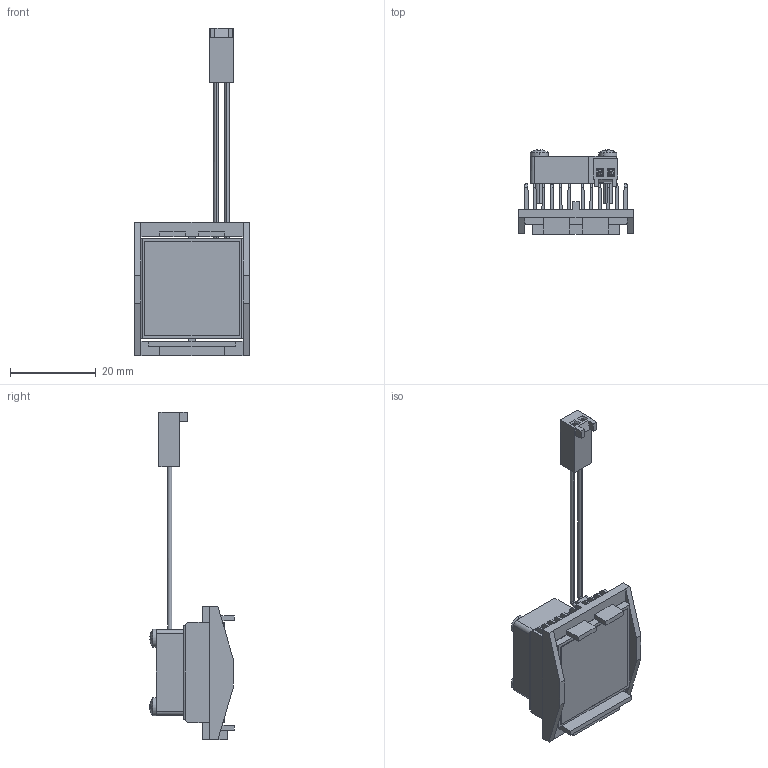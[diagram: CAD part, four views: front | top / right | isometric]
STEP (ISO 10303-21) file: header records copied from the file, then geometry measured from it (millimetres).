
FILE_DESCRIPTION (( 'STEP AP214' ), '1' );
FILE_NAME ('FI24-1.7+Y.STEP', '2023-03-17T09:03:08', ( '' ), ( '' ), 'SwSTEP 2.0', 'SolidWorks 2020', '' );
FILE_SCHEMA (( 'AUTOMOTIVE_DESIGN' ));
Length unit declared in the file: millimetre
Products named in the file (1): FI24-1.7+Y
Bounding box: 26.7 x 19.68 x 76.4 mm (x, y, z)
Volume: 5254.5 mm3; surface area: 11729 mm2
Topology: 10 solids, 10 shells, 408 faces, 1122 edges, 724 vertices
Faces by surface type: plane 246, cylinder 108, bspline 48, sphere 6
Entity records: 19671 total; most frequent: CARTESIAN_POINT 5136, ORIENTED_EDGE 2206, DIRECTION 1848, EDGE_CURVE 1103, LINE 736, VECTOR 736, VERTEX_POINT 724, AXIS2_PLACEMENT_3D 556
